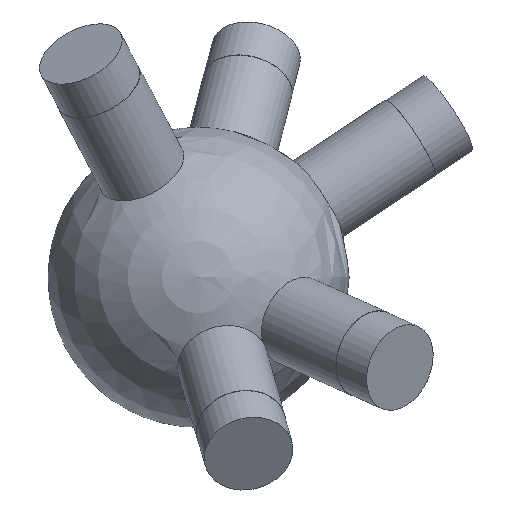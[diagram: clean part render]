
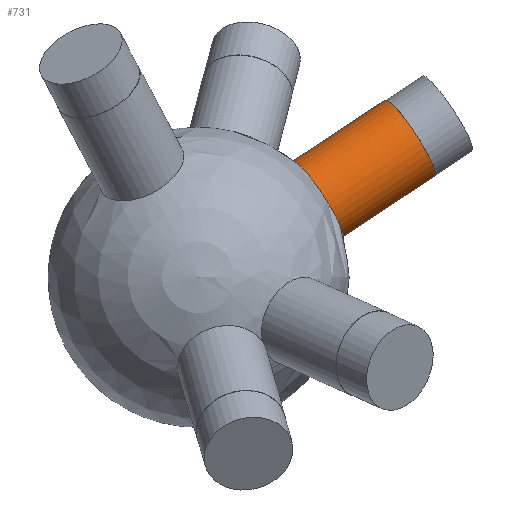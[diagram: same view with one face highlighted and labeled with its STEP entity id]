
A CAD part, top view. The second image highlights one B-rep face of the part: STEP entity #731.
In plain terms, the highlighted cylindrical face has radius 6 mm (diameter 12 mm), a full revolution.
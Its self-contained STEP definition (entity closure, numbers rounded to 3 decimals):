
#35 = SPHERICAL_SURFACE('',#36,20.);
#36 = AXIS2_PLACEMENT_3D('',#37,#38,#39);
#37 = CARTESIAN_POINT('',(0.,0.,0.));
#38 = DIRECTION('',(0.,0.,1.));
#39 = DIRECTION('',(1.,0.,-0.));
#130 = EDGE_CURVE('',#131,#131,#133,.T.);
#131 = VERTEX_POINT('',#132);
#132 = CARTESIAN_POINT('',(12.445,15.366,
    -3.005));
#133 = SURFACE_CURVE('',#134,(#139,#201),.PCURVE_S1.);
#134 = CIRCLE('',#135,6.);
#135 = AXIS2_PLACEMENT_3D('',#136,#137,#138);
#136 = CARTESIAN_POINT('',(15.741,10.353,
    -3.005));
#137 = DIRECTION('',(0.825,0.543,-0.158));
#138 = DIRECTION('',(-0.549,0.836,0.)
  );
#139 = PCURVE('',#35,#140);
#140 = DEFINITIONAL_REPRESENTATION('',(#141),#200);
#141 = B_SPLINE_CURVE_WITH_KNOTS('',8,(#142,#143,#144,#145,#146,#147,
    #148,#149,#150,#151,#152,#153,#154,#155,#156,#157,#158,#159,#160,
    #161,#162,#163,#164,#165,#166,#167,#168,#169,#170,#171,#172,#173,
    #174,#175,#176,#177,#178,#179,#180,#181,#182,#183,#184,#185,#186,
    #187,#188,#189,#190,#191,#192,#193,#194,#195,#196,#197,#198,#199),
  .UNSPECIFIED.,.F.,.F.,(9,7,7,7,7,7,7,7,9),(0.,0.785,
    1.473,2.074,3.126,3.915,
    4.507,5.395,6.283),.UNSPECIFIED.);
#142 = CARTESIAN_POINT('',(0.89,-0.151));
#143 = CARTESIAN_POINT('',(0.889,-0.121));
#144 = CARTESIAN_POINT('',(0.884,-0.092));
#145 = CARTESIAN_POINT('',(0.876,-0.063));
#146 = CARTESIAN_POINT('',(0.866,-0.036));
#147 = CARTESIAN_POINT('',(0.852,-0.009));
#148 = CARTESIAN_POINT('',(0.836,0.016));
#149 = CARTESIAN_POINT('',(0.817,0.039));
#150 = CARTESIAN_POINT('',(0.777,0.077));
#151 = CARTESIAN_POINT('',(0.757,0.094));
#152 = CARTESIAN_POINT('',(0.735,0.108));
#153 = CARTESIAN_POINT('',(0.712,0.12));
#154 = CARTESIAN_POINT('',(0.688,0.13));
#155 = CARTESIAN_POINT('',(0.663,0.138));
#156 = CARTESIAN_POINT('',(0.637,0.143));
#157 = CARTESIAN_POINT('',(0.589,0.147));
#158 = CARTESIAN_POINT('',(0.566,0.148));
#159 = CARTESIAN_POINT('',(0.543,0.146));
#160 = CARTESIAN_POINT('',(0.52,0.142));
#161 = CARTESIAN_POINT('',(0.498,0.137));
#162 = CARTESIAN_POINT('',(0.476,0.129));
#163 = CARTESIAN_POINT('',(0.456,0.12));
#164 = CARTESIAN_POINT('',(0.401,0.091));
#165 = CARTESIAN_POINT('',(0.369,0.067));
#166 = CARTESIAN_POINT('',(0.341,0.038));
#167 = CARTESIAN_POINT('',(0.317,0.005));
#168 = CARTESIAN_POINT('',(0.298,-0.03));
#169 = CARTESIAN_POINT('',(0.284,-0.068));
#170 = CARTESIAN_POINT('',(0.276,-0.107));
#171 = CARTESIAN_POINT('',(0.272,-0.176));
#172 = CARTESIAN_POINT('',(0.273,-0.206));
#173 = CARTESIAN_POINT('',(0.278,-0.235));
#174 = CARTESIAN_POINT('',(0.286,-0.264));
#175 = CARTESIAN_POINT('',(0.297,-0.292));
#176 = CARTESIAN_POINT('',(0.311,-0.318));
#177 = CARTESIAN_POINT('',(0.329,-0.343));
#178 = CARTESIAN_POINT('',(0.366,-0.382));
#179 = CARTESIAN_POINT('',(0.383,-0.398));
#180 = CARTESIAN_POINT('',(0.402,-0.412));
#181 = CARTESIAN_POINT('',(0.422,-0.424));
#182 = CARTESIAN_POINT('',(0.443,-0.435));
#183 = CARTESIAN_POINT('',(0.466,-0.444));
#184 = CARTESIAN_POINT('',(0.49,-0.451));
#185 = CARTESIAN_POINT('',(0.55,-0.463));
#186 = CARTESIAN_POINT('',(0.587,-0.466));
#187 = CARTESIAN_POINT('',(0.625,-0.465));
#188 = CARTESIAN_POINT('',(0.662,-0.458));
#189 = CARTESIAN_POINT('',(0.698,-0.447));
#190 = CARTESIAN_POINT('',(0.731,-0.431));
#191 = CARTESIAN_POINT('',(0.761,-0.412));
#192 = CARTESIAN_POINT('',(0.814,-0.367));
#193 = CARTESIAN_POINT('',(0.838,-0.342));
#194 = CARTESIAN_POINT('',(0.857,-0.313));
#195 = CARTESIAN_POINT('',(0.872,-0.283));
#196 = CARTESIAN_POINT('',(0.883,-0.251));
#197 = CARTESIAN_POINT('',(0.889,-0.218));
#198 = CARTESIAN_POINT('',(0.892,-0.184));
#199 = CARTESIAN_POINT('',(0.89,-0.151));
#200 = ( GEOMETRIC_REPRESENTATION_CONTEXT(2) 
PARAMETRIC_REPRESENTATION_CONTEXT() REPRESENTATION_CONTEXT('2D SPACE',''
  ) );
#201 = PCURVE('',#202,#207);
#202 = CYLINDRICAL_SURFACE('',#203,6.);
#203 = AXIS2_PLACEMENT_3D('',#204,#205,#206);
#204 = CARTESIAN_POINT('',(0.,0.,0.));
#205 = DIRECTION('',(0.825,0.543,-0.158));
#206 = DIRECTION('',(-0.549,0.836,0.)
  );
#207 = DEFINITIONAL_REPRESENTATION('',(#208),#212);
#208 = LINE('',#209,#210);
#209 = CARTESIAN_POINT('',(0.,19.079));
#210 = VECTOR('',#211,1.);
#211 = DIRECTION('',(1.,0.));
#212 = ( GEOMETRIC_REPRESENTATION_CONTEXT(2) 
PARAMETRIC_REPRESENTATION_CONTEXT() REPRESENTATION_CONTEXT('2D SPACE',''
  ) );
#731 = ADVANCED_FACE('',(#732),#202,.T.);
#732 = FACE_BOUND('',#733,.T.);
#733 = EDGE_LOOP('',(#734,#757,#784,#785));
#734 = ORIENTED_EDGE('',*,*,#735,.T.);
#735 = EDGE_CURVE('',#131,#736,#738,.T.);
#736 = VERTEX_POINT('',#737);
#737 = CARTESIAN_POINT('',(24.708,23.431,
    -5.347));
#738 = SEAM_CURVE('',#739,(#743,#750),.PCURVE_S1.);
#739 = LINE('',#740,#741);
#740 = CARTESIAN_POINT('',(-3.297,5.013,
    0.));
#741 = VECTOR('',#742,1.);
#742 = DIRECTION('',(0.825,0.543,-0.158));
#743 = PCURVE('',#202,#744);
#744 = DEFINITIONAL_REPRESENTATION('',(#745),#749);
#745 = LINE('',#746,#747);
#746 = CARTESIAN_POINT('',(6.283,-0.));
#747 = VECTOR('',#748,1.);
#748 = DIRECTION('',(0.,1.));
#749 = ( GEOMETRIC_REPRESENTATION_CONTEXT(2) 
PARAMETRIC_REPRESENTATION_CONTEXT() REPRESENTATION_CONTEXT('2D SPACE',''
  ) );
#750 = PCURVE('',#202,#751);
#751 = DEFINITIONAL_REPRESENTATION('',(#752),#756);
#752 = LINE('',#753,#754);
#753 = CARTESIAN_POINT('',(0.,-0.));
#754 = VECTOR('',#755,1.);
#755 = DIRECTION('',(0.,1.));
#756 = ( GEOMETRIC_REPRESENTATION_CONTEXT(2) 
PARAMETRIC_REPRESENTATION_CONTEXT() REPRESENTATION_CONTEXT('2D SPACE',''
  ) );
#757 = ORIENTED_EDGE('',*,*,#758,.F.);
#758 = EDGE_CURVE('',#736,#736,#759,.T.);
#759 = SURFACE_CURVE('',#760,(#765,#772),.PCURVE_S1.);
#760 = CIRCLE('',#761,6.);
#761 = AXIS2_PLACEMENT_3D('',#762,#763,#764);
#762 = CARTESIAN_POINT('',(28.005,18.418,
    -5.347));
#763 = DIRECTION('',(0.825,0.543,-0.158));
#764 = DIRECTION('',(-0.549,0.836,0.)
  );
#765 = PCURVE('',#202,#766);
#766 = DEFINITIONAL_REPRESENTATION('',(#767),#771);
#767 = LINE('',#768,#769);
#768 = CARTESIAN_POINT('',(0.,33.942));
#769 = VECTOR('',#770,1.);
#770 = DIRECTION('',(1.,0.));
#771 = ( GEOMETRIC_REPRESENTATION_CONTEXT(2) 
PARAMETRIC_REPRESENTATION_CONTEXT() REPRESENTATION_CONTEXT('2D SPACE',''
  ) );
#772 = PCURVE('',#773,#778);
#773 = PLANE('',#774);
#774 = AXIS2_PLACEMENT_3D('',#775,#776,#777);
#775 = CARTESIAN_POINT('',(28.005,18.418,
    -5.347));
#776 = DIRECTION('',(0.825,0.543,-0.158));
#777 = DIRECTION('',(-0.549,0.836,0.)
  );
#778 = DEFINITIONAL_REPRESENTATION('',(#779),#783);
#779 = CIRCLE('',#780,6.);
#780 = AXIS2_PLACEMENT_2D('',#781,#782);
#781 = CARTESIAN_POINT('',(0.,0.));
#782 = DIRECTION('',(1.,0.));
#783 = ( GEOMETRIC_REPRESENTATION_CONTEXT(2) 
PARAMETRIC_REPRESENTATION_CONTEXT() REPRESENTATION_CONTEXT('2D SPACE',''
  ) );
#784 = ORIENTED_EDGE('',*,*,#735,.F.);
#785 = ORIENTED_EDGE('',*,*,#130,.T.);
